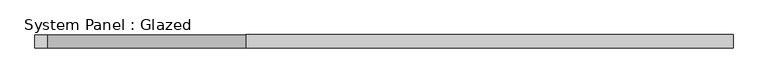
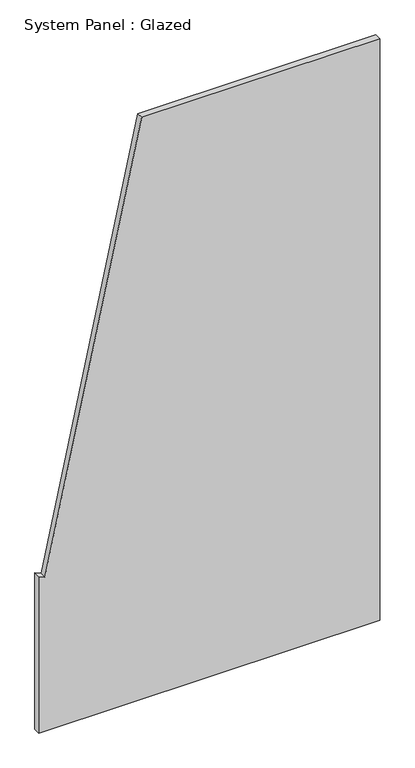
"""IFC4 building model written with IfcOpenShell, lengths in millimetres: plate geometry, System Panel : Glazed."""

from ifc_helpers import new_model, si_unit, frame, origin, place, context, project, spatial, polyline, outline, extrude, source, transform, mapped, element, save


def system_panel_glazed_dd6b3847(model_context):
    return source(origin(), model_context, "Body", "SweptSolid", [
        extrude(outline(polyline([(0.0, -651.6601177), (0.0, 651.6601177), (2350.0, 651.6601177), (2350.0, -258.207511), (621.8083026, -627.7655453), (632.263961, -651.6601177), (0.0, -651.6601177)])), frame((0.0, -49.5, 0.0), z_axis=(0.0, 1.0, 0.0), x_axis=(0.0, 0.0, 1.0)), (0.0, 0.0, 1.0), 25.0),
    ])


if __name__ == "__main__":
    model = new_model("IFC4")
    model_context = context("Model", 3, world=origin())
    ifc_project = project(units=[si_unit("LENGTHUNIT", "METRE", prefix="MILLI")], contexts=[model_context])
    site = spatial("IfcSite", under=ifc_project)
    building = spatial("IfcBuilding", under=site)
    placement = place(None, origin())
    system_panel_glazed_shape = system_panel_glazed_dd6b3847(model_context)
    element("IfcPlate", 1, ObjectType="System Panel : Glazed", at=placement, inside=building, context=model_context, shape_type="MappedRepresentation", body=[
        mapped(system_panel_glazed_shape, transform((0.0, 0.0, 0.0), x_axis=(1.0, 0.0, 0.0), y_axis=(0.0, 1.0, 0.0), z_axis=(0.0, 0.0, 1.0))),
    ])
    save(model, "model.ifc")
